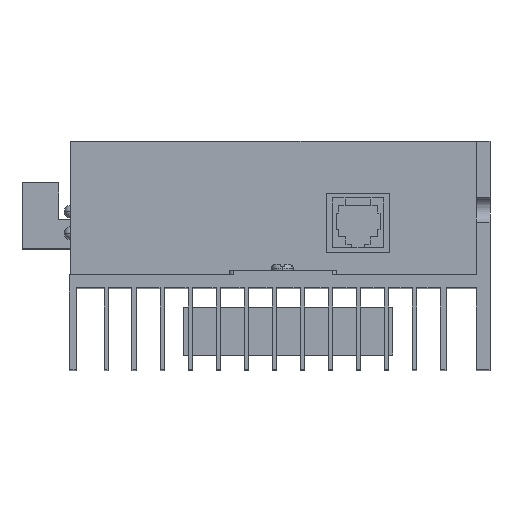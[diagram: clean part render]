
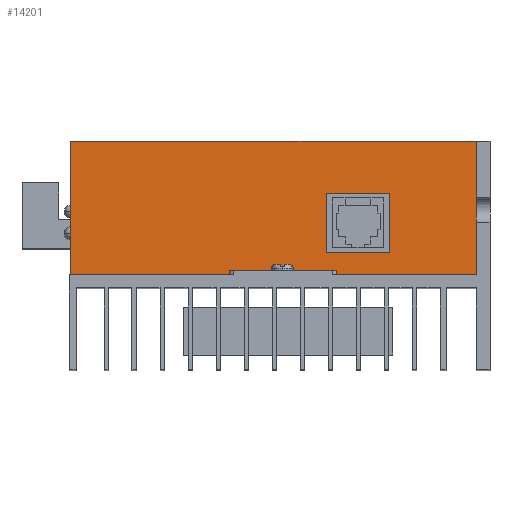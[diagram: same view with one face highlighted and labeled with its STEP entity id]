
A CAD part, top view. The second image highlights one B-rep face of the part: STEP entity #14201.
In plain terms, the highlighted planar face has unit normal (0, 0, 1).
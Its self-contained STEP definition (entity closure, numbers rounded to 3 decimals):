
#86 = CARTESIAN_POINT ( 'NONE',  ( 45.55, 22., 67. ) ) ;
#894 = LINE ( 'NONE', #10497, #11549 ) ;
#937 = EDGE_CURVE ( 'NONE', #9317, #10433, #9569, .T. ) ;
#1056 = ORIENTED_EDGE ( 'NONE', *, *, #16379, .F. ) ;
#1220 = DIRECTION ( 'NONE',  ( 0., 1., 0. ) ) ;
#1579 = LINE ( 'NONE', #5694, #14883 ) ;
#1709 = ORIENTED_EDGE ( 'NONE', *, *, #5385, .F. ) ;
#1822 = CARTESIAN_POINT ( 'NONE',  ( -48.45, 22., 67. ) ) ;
#1837 = CARTESIAN_POINT ( 'NONE',  ( 10.75, 40.9, 67. ) ) ;
#1977 = CARTESIAN_POINT ( 'NONE',  ( 10.75, 40.9, 67. ) ) ;
#2001 = ORIENTED_EDGE ( 'NONE', *, *, #15334, .F. ) ;
#2014 = ORIENTED_EDGE ( 'NONE', *, *, #12727, .T. ) ;
#2036 = EDGE_CURVE ( 'NONE', #6741, #5422, #14677, .T. ) ;
#2038 = VECTOR ( 'NONE', #7295, 1000. ) ;
#2586 = FACE_BOUND ( 'NONE', #4379, .T. ) ;
#2671 = VERTEX_POINT ( 'NONE', #11337 ) ;
#2776 = ORIENTED_EDGE ( 'NONE', *, *, #5785, .T. ) ;
#2798 = EDGE_CURVE ( 'NONE', #16044, #9317, #14116, .T. ) ;
#2801 = CARTESIAN_POINT ( 'NONE',  ( 25.55, 40.9, 67. ) ) ;
#2868 = LINE ( 'NONE', #15081, #13752 ) ;
#3119 = ORIENTED_EDGE ( 'NONE', *, *, #4847, .F. ) ;
#3272 = LINE ( 'NONE', #1837, #16291 ) ;
#3492 = LINE ( 'NONE', #16139, #3748 ) ;
#3748 = VECTOR ( 'NONE', #15958, 1000. ) ;
#4055 = VECTOR ( 'NONE', #12755, 1000. ) ;
#4272 = VECTOR ( 'NONE', #9625, 1000. ) ;
#4379 = EDGE_LOOP ( 'NONE', ( #13865, #2001, #1056, #7426 ) ) ;
#4669 = DIRECTION ( 'NONE',  ( 0., -1., 0. ) ) ;
#4770 = CARTESIAN_POINT ( 'NONE',  ( 45.55, 53., 67. ) ) ;
#4814 = VERTEX_POINT ( 'NONE', #13227 ) ;
#4847 = EDGE_CURVE ( 'NONE', #5892, #4814, #5493, .T. ) ;
#4960 = LINE ( 'NONE', #7911, #10253 ) ;
#5163 = VERTEX_POINT ( 'NONE', #7822 ) ;
#5189 = EDGE_CURVE ( 'NONE', #5163, #6741, #2868, .T. ) ;
#5385 = EDGE_CURVE ( 'NONE', #2671, #10940, #14103, .T. ) ;
#5422 = VERTEX_POINT ( 'NONE', #1977 ) ;
#5463 = PLANE ( 'NONE',  #5672 ) ;
#5493 = LINE ( 'NONE', #8468, #4272 ) ;
#5552 = DIRECTION ( 'NONE',  ( 0., 0., -1. ) ) ;
#5672 = AXIS2_PLACEMENT_3D ( 'NONE', #5730, #5552, #9676 ) ;
#5694 = CARTESIAN_POINT ( 'NONE',  ( -48.45, 53., 67. ) ) ;
#5730 = CARTESIAN_POINT ( 'NONE',  ( -48.45, 22., 67. ) ) ;
#5785 = EDGE_CURVE ( 'NONE', #5892, #6483, #894, .T. ) ;
#5892 = VERTEX_POINT ( 'NONE', #86 ) ;
#5978 = DIRECTION ( 'NONE',  ( 0., 1., 0. ) ) ;
#6483 = VERTEX_POINT ( 'NONE', #14233 ) ;
#6519 = CARTESIAN_POINT ( 'NONE',  ( -48.45, 22., 67. ) ) ;
#6741 = VERTEX_POINT ( 'NONE', #2801 ) ;
#7048 = ORIENTED_EDGE ( 'NONE', *, *, #10983, .T. ) ;
#7275 = LINE ( 'NONE', #10316, #11779 ) ;
#7288 = CARTESIAN_POINT ( 'NONE',  ( 10.75, 27.3, 67. ) ) ;
#7295 = DIRECTION ( 'NONE',  ( -1., 0., 0. ) ) ;
#7376 = CARTESIAN_POINT ( 'NONE',  ( -48.45, 53., 67. ) ) ;
#7426 = ORIENTED_EDGE ( 'NONE', *, *, #2036, .F. ) ;
#7822 = CARTESIAN_POINT ( 'NONE',  ( 25.55, 27.3, 67. ) ) ;
#7911 = CARTESIAN_POINT ( 'NONE',  ( 10.75, 27.3, 67. ) ) ;
#8128 = DIRECTION ( 'NONE',  ( -1., 0., 0. ) ) ;
#8165 = FACE_OUTER_BOUND ( 'NONE', #9251, .T. ) ;
#8357 = VECTOR ( 'NONE', #10375, 1000. ) ;
#8375 = VERTEX_POINT ( 'NONE', #7288 ) ;
#8468 = CARTESIAN_POINT ( 'NONE',  ( -48.45, 22., 67. ) ) ;
#9026 = CARTESIAN_POINT ( 'NONE',  ( 25.55, 40.9, 67. ) ) ;
#9219 = ORIENTED_EDGE ( 'NONE', *, *, #10823, .F. ) ;
#9251 = EDGE_LOOP ( 'NONE', ( #9219, #1709, #7048, #3119, #2776, #16144, #2014, #10827, #16238 ) ) ;
#9317 = VERTEX_POINT ( 'NONE', #10162 ) ;
#9569 = LINE ( 'NONE', #6519, #10583 ) ;
#9625 = DIRECTION ( 'NONE',  ( -1., 0., 0. ) ) ;
#9676 = DIRECTION ( 'NONE',  ( -1., 0., 0. ) ) ;
#10162 = CARTESIAN_POINT ( 'NONE',  ( -48.45, 22., 67. ) ) ;
#10253 = VECTOR ( 'NONE', #11696, 1000. ) ;
#10316 = CARTESIAN_POINT ( 'NONE',  ( -11.75, 23., 67. ) ) ;
#10375 = DIRECTION ( 'NONE',  ( -1., 0., 0. ) ) ;
#10418 = DIRECTION ( 'NONE',  ( 0., 1., 0. ) ) ;
#10433 = VERTEX_POINT ( 'NONE', #7376 ) ;
#10497 = CARTESIAN_POINT ( 'NONE',  ( 45.55, 22., 67. ) ) ;
#10572 = CARTESIAN_POINT ( 'NONE',  ( -11.75, 23., 67. ) ) ;
#10583 = VECTOR ( 'NONE', #1220, 1000. ) ;
#10823 = EDGE_CURVE ( 'NONE', #10940, #16044, #7275, .T. ) ;
#10827 = ORIENTED_EDGE ( 'NONE', *, *, #937, .F. ) ;
#10940 = VERTEX_POINT ( 'NONE', #10572 ) ;
#10983 = EDGE_CURVE ( 'NONE', #2671, #4814, #3492, .T. ) ;
#11228 = CARTESIAN_POINT ( 'NONE',  ( -11.75, 23., 67. ) ) ;
#11337 = CARTESIAN_POINT ( 'NONE',  ( 13.25, 23., 67. ) ) ;
#11549 = VECTOR ( 'NONE', #10418, 1000. ) ;
#11696 = DIRECTION ( 'NONE',  ( 1., 0., 0. ) ) ;
#11779 = VECTOR ( 'NONE', #4669, 1000. ) ;
#12576 = VECTOR ( 'NONE', #5978, 1000. ) ;
#12604 = DIRECTION ( 'NONE',  ( 0., -1., 0. ) ) ;
#12727 = EDGE_CURVE ( 'NONE', #13957, #10433, #1579, .T. ) ;
#12755 = DIRECTION ( 'NONE',  ( -1., 0., 0. ) ) ;
#12894 = CARTESIAN_POINT ( 'NONE',  ( 45.55, 22., 67. ) ) ;
#13227 = CARTESIAN_POINT ( 'NONE',  ( 13.25, 22., 67. ) ) ;
#13736 = DIRECTION ( 'NONE',  ( 0., 1., 0. ) ) ;
#13752 = VECTOR ( 'NONE', #13736, 1000. ) ;
#13865 = ORIENTED_EDGE ( 'NONE', *, *, #5189, .F. ) ;
#13957 = VERTEX_POINT ( 'NONE', #4770 ) ;
#14103 = LINE ( 'NONE', #11228, #4055 ) ;
#14116 = LINE ( 'NONE', #1822, #2038 ) ;
#14201 = ADVANCED_FACE ( 'NONE', ( #2586, #8165 ), #5463, .F. ) ;
#14233 = CARTESIAN_POINT ( 'NONE',  ( 45.55, 37.1, 67. ) ) ;
#14677 = LINE ( 'NONE', #9026, #8357 ) ;
#14883 = VECTOR ( 'NONE', #8128, 1000. ) ;
#15081 = CARTESIAN_POINT ( 'NONE',  ( 25.55, 27.3, 67. ) ) ;
#15334 = EDGE_CURVE ( 'NONE', #8375, #5163, #4960, .T. ) ;
#15757 = LINE ( 'NONE', #12894, #12576 ) ;
#15932 = EDGE_CURVE ( 'NONE', #6483, #13957, #15757, .T. ) ;
#15958 = DIRECTION ( 'NONE',  ( 0., -1., 0. ) ) ;
#16044 = VERTEX_POINT ( 'NONE', #16108 ) ;
#16108 = CARTESIAN_POINT ( 'NONE',  ( -11.75, 22., 67. ) ) ;
#16139 = CARTESIAN_POINT ( 'NONE',  ( 13.25, 23., 67. ) ) ;
#16144 = ORIENTED_EDGE ( 'NONE', *, *, #15932, .T. ) ;
#16238 = ORIENTED_EDGE ( 'NONE', *, *, #2798, .F. ) ;
#16291 = VECTOR ( 'NONE', #12604, 1000. ) ;
#16379 = EDGE_CURVE ( 'NONE', #5422, #8375, #3272, .T. ) ;
